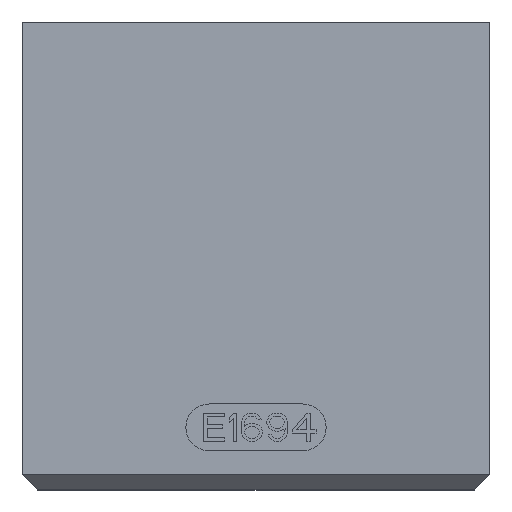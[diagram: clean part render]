
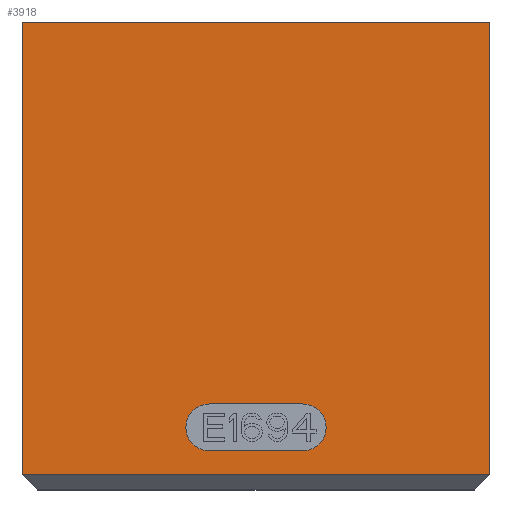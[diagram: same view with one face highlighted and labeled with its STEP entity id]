
A CAD part, top view. The second image highlights one B-rep face of the part: STEP entity #3918.
In plain terms, the highlighted planar face has unit normal (0, 0, 1).
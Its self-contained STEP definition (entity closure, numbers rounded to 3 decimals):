
#38 = CARTESIAN_POINT ( 'NONE',  ( -3., 5.5, 6. ) ) ;
#93 = LINE ( 'NONE', #8830, #9562 ) ;
#301 = DIRECTION ( 'NONE',  ( 1., 0., 0. ) ) ;
#1115 = DIRECTION ( 'NONE',  ( 1., 0., 0. ) ) ;
#1156 = VERTEX_POINT ( 'NONE', #8447 ) ;
#1312 = CARTESIAN_POINT ( 'NONE',  ( -15., 2.5, 6. ) ) ;
#1681 = ORIENTED_EDGE ( 'NONE', *, *, #4532, .T. ) ;
#1900 = VECTOR ( 'NONE', #6388, 1000. ) ;
#1905 = LINE ( 'NONE', #6460, #1900 ) ;
#2050 = VERTEX_POINT ( 'NONE', #38 ) ;
#2387 = DIRECTION ( 'NONE',  ( 0., 0., -1. ) ) ;
#2689 = ORIENTED_EDGE ( 'NONE', *, *, #2916, .F. ) ;
#2780 = VERTEX_POINT ( 'NONE', #5527 ) ;
#2793 = EDGE_LOOP ( 'NONE', ( #11356, #1681, #10268, #6600, #3762 ) ) ;
#2883 = CARTESIAN_POINT ( 'NONE',  ( -3., 2.5, 6. ) ) ;
#2884 = CIRCLE ( 'NONE', #9133, 1.5 ) ;
#2916 = EDGE_CURVE ( 'NONE', #1156, #10512, #6593, .T. ) ;
#3028 = LINE ( 'NONE', #6414, #5712 ) ;
#3417 = VERTEX_POINT ( 'NONE', #6331 ) ;
#3629 = VECTOR ( 'NONE', #1115, 1000. ) ;
#3762 = ORIENTED_EDGE ( 'NONE', *, *, #8463, .T. ) ;
#3855 = DIRECTION ( 'NONE',  ( 0., 1., 0. ) ) ;
#3898 = CARTESIAN_POINT ( 'NONE',  ( 15., 30., 6. ) ) ;
#3917 = VERTEX_POINT ( 'NONE', #11435 ) ;
#3918 = ADVANCED_FACE ( 'NONE', ( #3925, #3998 ), #9583, .T. ) ;
#3925 = FACE_BOUND ( 'NONE', #2793, .T. ) ;
#3995 = AXIS2_PLACEMENT_3D ( 'NONE', #7786, #2387, #8745 ) ;
#3998 = FACE_OUTER_BOUND ( 'NONE', #9532, .T. ) ;
#4505 = CIRCLE ( 'NONE', #3995, 1.5 ) ;
#4532 = EDGE_CURVE ( 'NONE', #10615, #2050, #2884, .T. ) ;
#4587 = AXIS2_PLACEMENT_3D ( 'NONE', #11194, #5808, #301 ) ;
#4996 = EDGE_CURVE ( 'NONE', #2050, #2780, #1905, .T. ) ;
#5527 = CARTESIAN_POINT ( 'NONE',  ( 3., 5.5, 6. ) ) ;
#5643 = CARTESIAN_POINT ( 'NONE',  ( -15., 0., 6. ) ) ;
#5712 = VECTOR ( 'NONE', #9236, 1000. ) ;
#5717 = DIRECTION ( 'NONE',  ( -1., 0., 0. ) ) ;
#5767 = VERTEX_POINT ( 'NONE', #10646 ) ;
#5808 = DIRECTION ( 'NONE',  ( 0., 0., -1. ) ) ;
#5884 = DIRECTION ( 'NONE',  ( 1., 0., 0. ) ) ;
#5961 = DIRECTION ( 'NONE',  ( 0., 0., -1. ) ) ;
#6035 = CARTESIAN_POINT ( 'NONE',  ( -3., 4., 6. ) ) ;
#6191 = ORIENTED_EDGE ( 'NONE', *, *, #10700, .F. ) ;
#6249 = LINE ( 'NONE', #7454, #3629 ) ;
#6331 = CARTESIAN_POINT ( 'NONE',  ( 3., 2.5, 6. ) ) ;
#6388 = DIRECTION ( 'NONE',  ( 1., 0., 0. ) ) ;
#6414 = CARTESIAN_POINT ( 'NONE',  ( -15., 1., 6. ) ) ;
#6460 = CARTESIAN_POINT ( 'NONE',  ( -15., 5.5, 6. ) ) ;
#6562 = VECTOR ( 'NONE', #3855, 1000. ) ;
#6593 = LINE ( 'NONE', #5643, #6562 ) ;
#6600 = ORIENTED_EDGE ( 'NONE', *, *, #6913, .T. ) ;
#6780 = VECTOR ( 'NONE', #5717, 1000. ) ;
#6913 = EDGE_CURVE ( 'NONE', #2780, #3917, #4505, .T. ) ;
#7269 = CARTESIAN_POINT ( 'NONE',  ( -15., 30., 6. ) ) ;
#7373 = LINE ( 'NONE', #1312, #6780 ) ;
#7454 = CARTESIAN_POINT ( 'NONE',  ( 0., 30., 6. ) ) ;
#7467 = AXIS2_PLACEMENT_3D ( 'NONE', #9658, #9543, #9457 ) ;
#7786 = CARTESIAN_POINT ( 'NONE',  ( 3., 4., 6. ) ) ;
#8131 = EDGE_CURVE ( 'NONE', #1156, #5767, #3028, .T. ) ;
#8222 = EDGE_CURVE ( 'NONE', #3417, #10615, #7373, .T. ) ;
#8322 = ORIENTED_EDGE ( 'NONE', *, *, #8131, .T. ) ;
#8447 = CARTESIAN_POINT ( 'NONE',  ( -15., 1., 6. ) ) ;
#8463 = EDGE_CURVE ( 'NONE', #3917, #3417, #9858, .T. ) ;
#8700 = ORIENTED_EDGE ( 'NONE', *, *, #8827, .F. ) ;
#8745 = DIRECTION ( 'NONE',  ( 1., 0., 0. ) ) ;
#8776 = VERTEX_POINT ( 'NONE', #3898 ) ;
#8827 = EDGE_CURVE ( 'NONE', #10512, #8776, #6249, .T. ) ;
#8830 = CARTESIAN_POINT ( 'NONE',  ( 15., 0., 6. ) ) ;
#9133 = AXIS2_PLACEMENT_3D ( 'NONE', #6035, #5961, #5884 ) ;
#9236 = DIRECTION ( 'NONE',  ( 1., 0., 0. ) ) ;
#9457 = DIRECTION ( 'NONE',  ( 1., 0., 0. ) ) ;
#9532 = EDGE_LOOP ( 'NONE', ( #2689, #8322, #6191, #8700 ) ) ;
#9543 = DIRECTION ( 'NONE',  ( 0., 0., 1. ) ) ;
#9562 = VECTOR ( 'NONE', #9772, 1000. ) ;
#9583 = PLANE ( 'NONE',  #7467 ) ;
#9658 = CARTESIAN_POINT ( 'NONE',  ( -15., 0., 6. ) ) ;
#9772 = DIRECTION ( 'NONE',  ( 0., -1., 0. ) ) ;
#9858 = CIRCLE ( 'NONE', #4587, 1.5 ) ;
#10268 = ORIENTED_EDGE ( 'NONE', *, *, #4996, .T. ) ;
#10512 = VERTEX_POINT ( 'NONE', #7269 ) ;
#10615 = VERTEX_POINT ( 'NONE', #2883 ) ;
#10646 = CARTESIAN_POINT ( 'NONE',  ( 15., 1., 6. ) ) ;
#10700 = EDGE_CURVE ( 'NONE', #8776, #5767, #93, .T. ) ;
#11194 = CARTESIAN_POINT ( 'NONE',  ( 3., 4., 6. ) ) ;
#11356 = ORIENTED_EDGE ( 'NONE', *, *, #8222, .T. ) ;
#11435 = CARTESIAN_POINT ( 'NONE',  ( 4.5, 4., 6. ) ) ;
